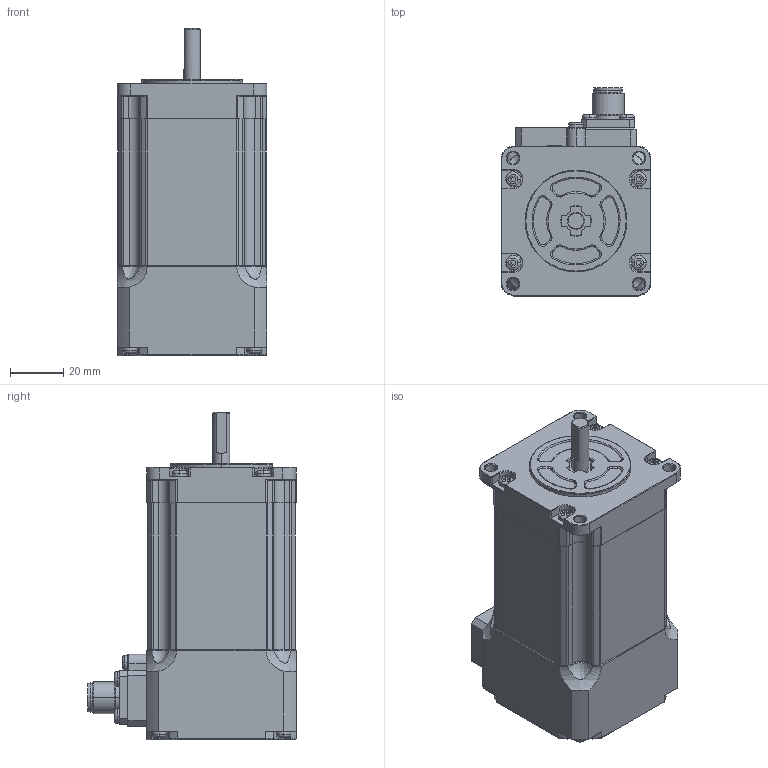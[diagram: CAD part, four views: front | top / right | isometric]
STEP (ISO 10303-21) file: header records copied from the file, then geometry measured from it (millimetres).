
FILE_DESCRIPTION (( 'STEP AP203' ), '1' );
FILE_NAME ('SP2566-5100.STEP', '2014-07-25T02:55:21', ( '' ), ( '' ), 'SwSTEP 2.0', 'SolidWorks 2014', '' );
FILE_SCHEMA (( 'CONFIG_CONTROL_DESIGN' ));
Length unit declared in the file: millimetre
Products named in the file (1): SP2566-5100
Bounding box: 56 x 78 x 122.6 mm (x, y, z)
Volume: 306048.8 mm3; surface area: 31052 mm2
Topology: 1 solids, 1 shells, 794 faces, 2106 edges, 1348 vertices
Faces by surface type: plane 391, cylinder 250, torus 74, cone 51, bspline 28
Entity records: 25899 total; most frequent: CARTESIAN_POINT 6191, ORIENTED_EDGE 4212, DIRECTION 4041, EDGE_CURVE 2106, AXIS2_PLACEMENT_3D 1447, VERTEX_POINT 1348, LINE 1147, VECTOR 1147
